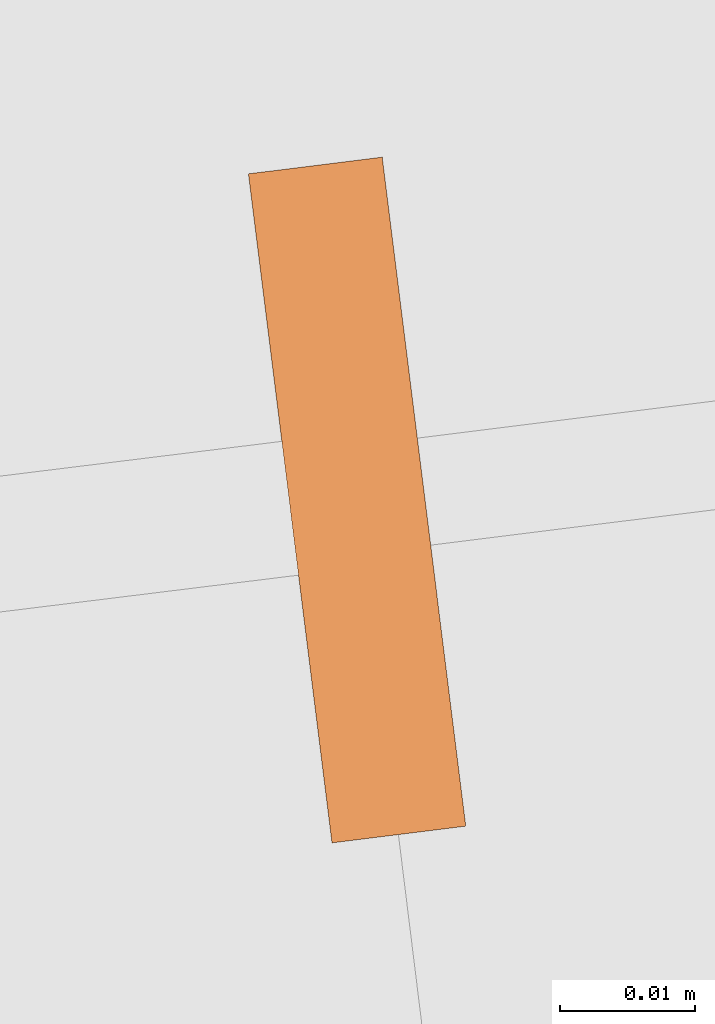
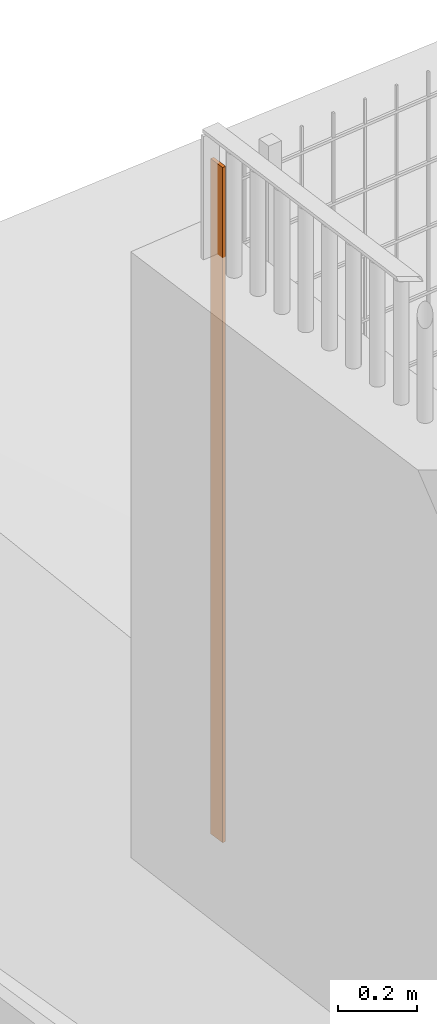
# One storey, part 22 of 1809: 1 proxy, 1 element without a shape of its own.
"""IFC2X3 building model written with IfcOpenShell, lengths in millimetres."""

from ifc_helpers import new_model, entity, si_unit, converted_unit, derived_unit, money_unit, direction, frame, origin_with_axes, place, context, subcontext, project, spatial, faceted_brep, source, transform, mapped, material, type_object, element, aggregate, save


model = new_model("IFC2X3")

# Units and contexts
model_context = context("Model", 3, precision=0.01, world=origin_with_axes(), true_north=direction((0.0, 1.0)))
body_context = subcontext(model_context, "Body", "Model", "MODEL_VIEW")
ifc_project = project(units=[si_unit("LENGTHUNIT", "METRE", prefix="MILLI"), si_unit("AREAUNIT", "SQUARE_METRE"), si_unit("VOLUMEUNIT", "CUBIC_METRE"), converted_unit("PLANEANGLEUNIT", "DEGREE", entity("IfcPlaneAngleMeasure", 0.0174532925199), si_unit("PLANEANGLEUNIT", "RADIAN"), dimensions=[0, 0, 0, 0, 0, 0, 0]), si_unit("SOLIDANGLEUNIT", "STERADIAN"), money_unit("EUR"), converted_unit("TIMEUNIT", "Year", entity("IfcTimeMeasure", 31556926.0), si_unit("TIMEUNIT", "SECOND"), dimensions=[0, 0, 1, 0, 0, 0, 0]), si_unit("MASSUNIT", "GRAM", prefix="KILO"), si_unit("THERMODYNAMICTEMPERATUREUNIT", "DEGREE_CELSIUS"), si_unit("LUMINOUSINTENSITYUNIT", "LUMEN"), si_unit("ENERGYUNIT", "JOULE", prefix="MEGA"), derived_unit("THERMALCONDUCTANCEUNIT", [(si_unit("POWERUNIT", "WATT"), 1), (si_unit("LENGTHUNIT", "METRE"), -1), (si_unit("THERMODYNAMICTEMPERATUREUNIT", "KELVIN"), -1)]), derived_unit("SPECIFICHEATCAPACITYUNIT", [(si_unit("ENERGYUNIT", "JOULE"), 1), (si_unit("MASSUNIT", "GRAM", prefix="KILO"), -1), (si_unit("THERMODYNAMICTEMPERATUREUNIT", "KELVIN"), -1)]), derived_unit("MASSDENSITYUNIT", [(si_unit("MASSUNIT", "GRAM", prefix="KILO"), 1), (si_unit("VOLUMEUNIT", "CUBIC_METRE"), -1)])], contexts=[model_context])

# Site, building, storey
site_placement = place(None, origin_with_axes())
site = spatial("IfcSite", under=ifc_project, at=site_placement, Name="Politse- ja Piirivalveameti ning Päästeameti ühishoone", CompositionType="ELEMENT")
building_placement = place(site_placement, origin_with_axes())
building = spatial("IfcBuilding", under=site, at=building_placement, Name="Politse- ja Piirivalveameti ning Päästeameti ühishoone", CompositionType="ELEMENT")
storey_placement = place(building_placement, origin_with_axes())
storey = spatial("IfcBuildingStorey", under=building, at=storey_placement, Name="Esimene korrus", CompositionType="ELEMENT", Elevation=0.0)

# Proxies
building_element_proxy_type_1 = type_object("IfcBuildingElementProxyType", Name="Railing Type", PredefinedType="NOTDEFINED")
proxy_1_placement = place(storey_placement, frame((44315.9245146, 76650.7857067, 296.762367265), z_axis=(0.0, 0.0, 1.0), x_axis=(0.122151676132, 0.992511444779, 0.0)))
proxy_1 = element("IfcBuildingElementProxy", 1, at=proxy_1_placement, inside=storey, type_object=building_element_proxy_type_1, Name="PIIRDEAED")
ifc_material = material(Name="Teras - Konstruktsioon")
building_element_proxy_type_2 = type_object("IfcBuildingElementProxyType", Name="IfcBuildingElementProxy", PredefinedType="NOTDEFINED")
shared_shape = source(origin_with_axes(), body_context, "Body", "Brep", [
    faceted_brep([(25.0, 5.0, 0.0), (-25.0, 5.0, 0.0), (-25.0, 4.99999999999, 2080.0), (25.0, 4.99999999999, 2080.0), (25.0, -5.0, 0.0), (-25.0, -5.0, 0.0), (-25.0, -5.00000000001, 2080.0), (25.0, -5.00000000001, 2080.0)], [[[0, 1, 2, 3]], [[0, 4, 5, 1]], [[1, 5, 6, 2]], [[3, 2, 6, 7]], [[4, 0, 3, 7]], [[5, 4, 7, 6]]]),
])
proxy_2_placement = place(proxy_1_placement, frame((-19436.1424349, 76407.4255205, 0.0), z_axis=(0.0, 0.0, 1.0), x_axis=(0.122151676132, -0.992511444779, 0.0)))
proxy_2 = element("IfcBuildingElementProxy", 2, at=proxy_2_placement, type_object=building_element_proxy_type_2, material=ifc_material, Name="PIIRDE POST - 001", context=body_context, shape_type="MappedRepresentation", body=[
    mapped(shared_shape, transform((0.0, 0.0, 0.0), x_axis=(-0.123895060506, 0.99229532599, 0.0), y_axis=(-0.99229532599, -0.123895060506, 0.0), z_axis=(0.0, 0.0, 1.0))),
])
aggregate(proxy_1, [proxy_2])

save(model, "model.ifc")
